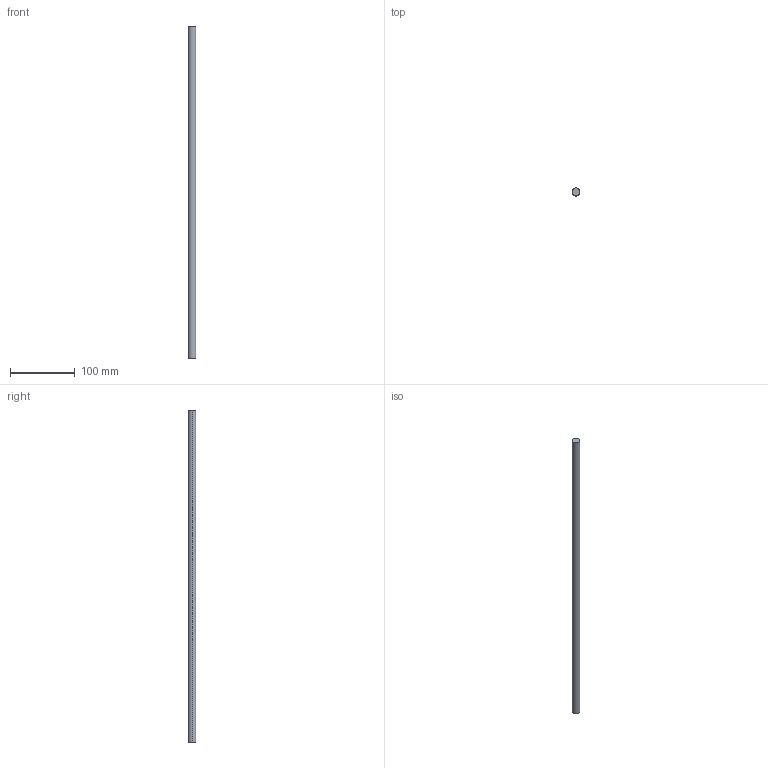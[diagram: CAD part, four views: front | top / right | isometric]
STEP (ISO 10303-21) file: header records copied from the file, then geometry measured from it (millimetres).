
FILE_DESCRIPTION (( 'STEP AP214' ), '1' );
FILE_NAME ('Magic Reling längs - 550.step', '2010-09-07T14:56:18', ( 'grass' ), ( '' ), 'SwSTEP 2.0', 'SolidWorks 2010', '' );
FILE_SCHEMA (( 'AUTOMOTIVE_DESIGN' ));
Length unit declared in the file: millimetre
Products named in the file (1): Magic Reling längs - 550
Bounding box: 12 x 12 x 512 mm (x, y, z)
Volume: 57905.8 mm3; surface area: 19528.1 mm2
Topology: 1 solids, 1 shells, 4 faces, 6 edges, 4 vertices
Faces by surface type: cylinder 2, plane 2
Entity records: 128 total; most frequent: DIRECTION 20, CARTESIAN_POINT 15, ORIENTED_EDGE 12, AXIS2_PLACEMENT_3D 9, EDGE_CURVE 6, ADVANCED_FACE 4, CIRCLE 4, EDGE_LOOP 4
